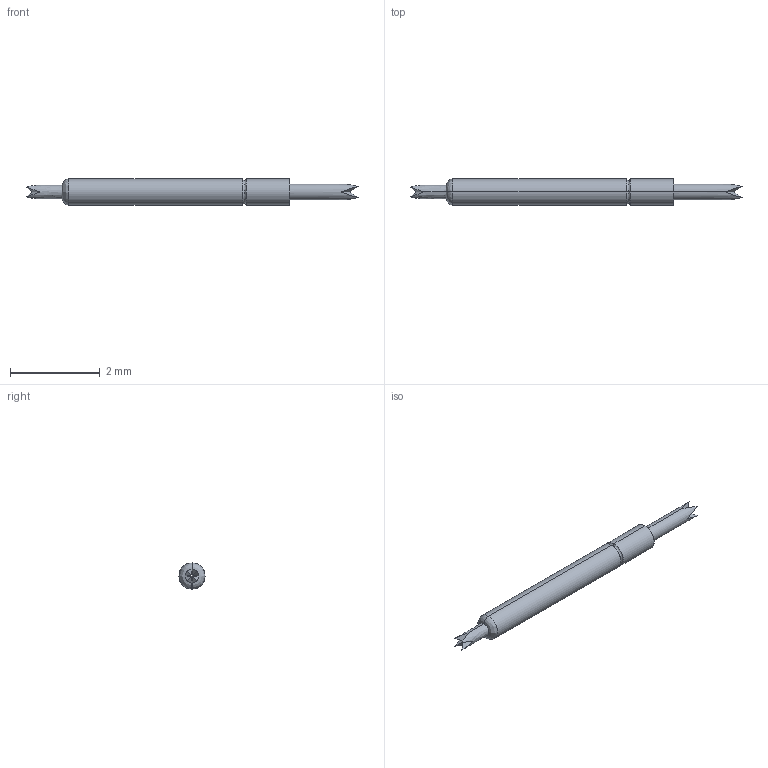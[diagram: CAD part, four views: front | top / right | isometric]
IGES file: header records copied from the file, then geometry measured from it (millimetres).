
Start section: SolidWorks IGES file using analytic representation for surfaces
Global section: file name: Z:\probe solid model mockups\Solidworks models\IGES Files\CSP8-20 IGES files\CSP8-20LL.IGS; native system: SolidWorks 2006 by SolidWorks Corporation; preprocessor: SolidWorks 2006 by SolidWorks Corporation; author: tsakatani; date: 080108.153026; units: inch
Bounding box: 7.42 x 0.58 x 0.58 mm (x, y, z)
Surface area: 12.2 mm2 (no closed solid volume)
Topology: 0 solids, 0 shells, 31 faces, 180 edges, 180 vertices
Faces by surface type: bspline 23, revolution 8
